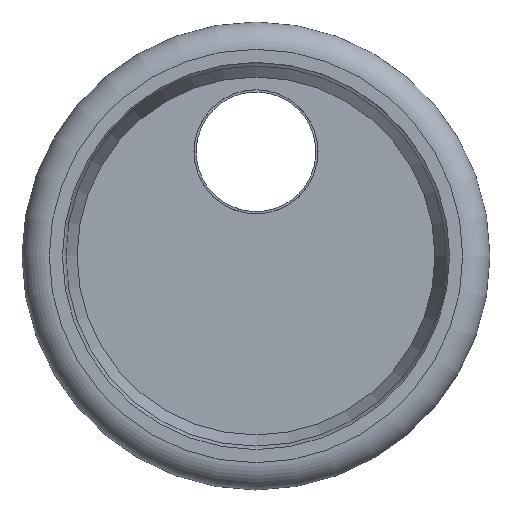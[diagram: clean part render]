
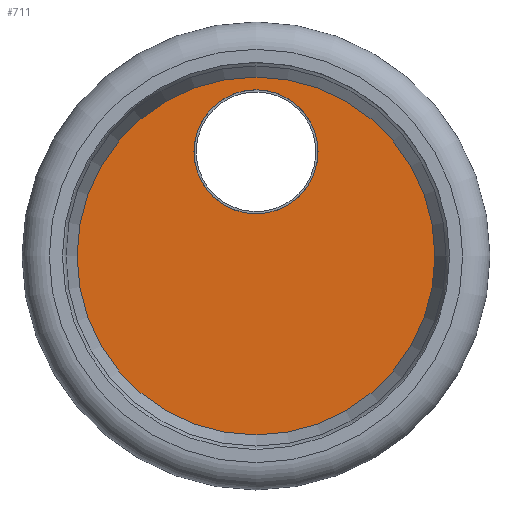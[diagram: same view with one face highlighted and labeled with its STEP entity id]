
A CAD part, left-side view. The second image highlights one B-rep face of the part: STEP entity #711.
In plain terms, the highlighted planar face has unit normal (-1, 0, 0) as drawn and (0, 0, -1) by its records, which use the part's own axes.
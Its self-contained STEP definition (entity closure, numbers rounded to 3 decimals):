
#637=CARTESIAN_POINT('',(-12.5,21.0,0.0));
#638=VERTEX_POINT('',#637);
#639=CARTESIAN_POINT('',(0.0,21.0,0.0));
#640=DIRECTION('',(0.0,0.0,1.0));
#641=DIRECTION('',(1.0,0.0,0.0));
#642=AXIS2_PLACEMENT_3D('',#639,#640,#641);
#643=CIRCLE('',#642,12.5);
#644=EDGE_CURVE('',#638,#638,#643,.T.);
#676=CARTESIAN_POINT('',(37.5,0.,0.0));
#677=VERTEX_POINT('',#676);
#678=CARTESIAN_POINT('',(0.0,0.0,0.0));
#679=DIRECTION('',(0.0,0.0,-1.0));
#680=DIRECTION('',(-1.0,0.0,0.0));
#681=AXIS2_PLACEMENT_3D('',#678,#679,#680);
#682=CIRCLE('',#681,37.5);
#683=EDGE_CURVE('',#677,#677,#682,.T.);
#700=CARTESIAN_POINT('',(0.0,0.0,0.0));
#701=DIRECTION('',(0.0,0.0,-1.0));
#702=DIRECTION('',(-1.0,0.0,0.0));
#703=AXIS2_PLACEMENT_3D('',#700,#701,#702);
#704=PLANE('',#703);
#705=ORIENTED_EDGE('',*,*,#683,.T.);
#706=EDGE_LOOP('',(#705));
#707=FACE_OUTER_BOUND('',#706,.T.);
#708=ORIENTED_EDGE('',*,*,#644,.T.);
#709=EDGE_LOOP('',(#708));
#710=FACE_BOUND('',#709,.T.);
#711=ADVANCED_FACE('',(#707,#710),#704,.T.);
